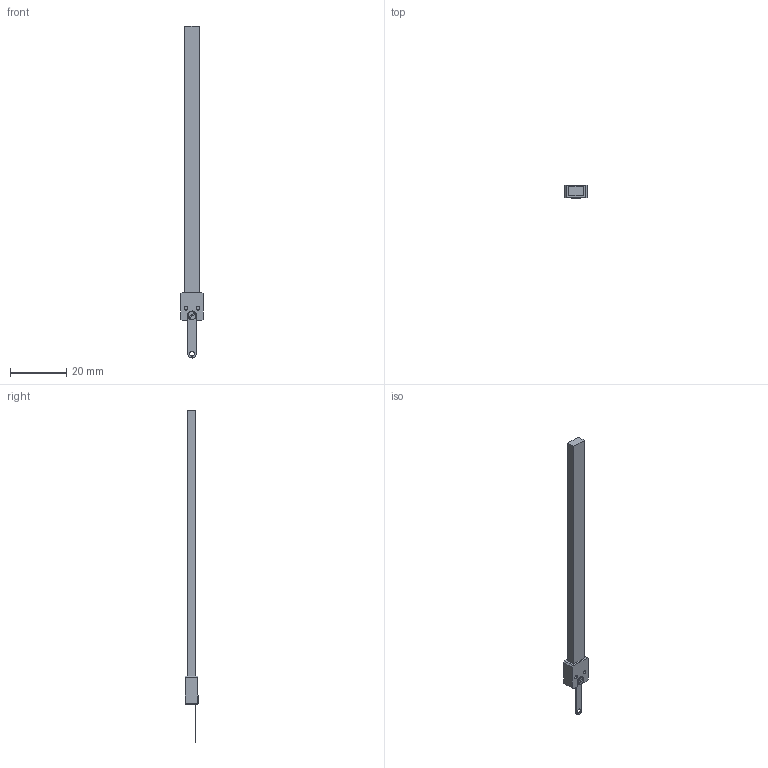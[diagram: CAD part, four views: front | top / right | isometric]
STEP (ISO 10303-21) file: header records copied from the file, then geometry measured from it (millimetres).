
FILE_DESCRIPTION (( 'STEP AP214' ), '1' );
FILE_NAME ('LT4050D_DriveRod_101D1D2-PiezoMotor.STEP', '2017-09-08T13:48:00', ( '' ), ( '' ), 'SwSTEP 2.0', 'SolidWorks 2017', '' );
FILE_SCHEMA (( 'AUTOMOTIVE_DESIGN' ));
Length unit declared in the file: millimetre
Products named in the file (1): LT4050D_DriveRod_101D1D2-PiezoMotor
Bounding box: 8 x 4.8 x 118.15 mm (x, y, z)
Volume: 1827.7 mm3; surface area: 2219.3 mm2
Topology: 4 solids, 4 shells, 64 faces, 166 edges, 109 vertices
Faces by surface type: plane 37, cylinder 20, cone 7
Entity records: 2050 total; most frequent: CARTESIAN_POINT 352, DIRECTION 347, ORIENTED_EDGE 332, EDGE_CURVE 166, AXIS2_PLACEMENT_3D 120, VERTEX_POINT 109, LINE 107, VECTOR 107
